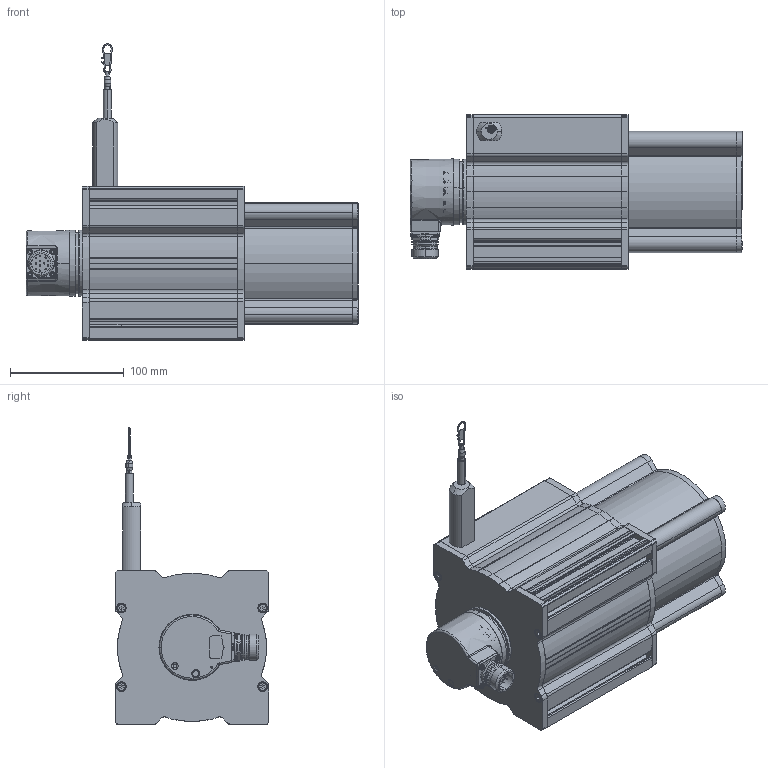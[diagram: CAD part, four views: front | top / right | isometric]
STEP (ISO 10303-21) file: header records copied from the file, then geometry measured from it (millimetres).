
FILE_DESCRIPTION (( 'STEP AP214' ), '1' );
FILE_NAME ('D8.4D1.4000.6324.G123.STEP', '2009-05-13T08:12:14', ( 'admin' ), ( 'Fritz Kübler GmbH' ), 'SwSTEP 2.0', 'SolidWorks 2009', '' );
FILE_SCHEMA (( 'AUTOMOTIVE_DESIGN' ));
Length unit declared in the file: millimetre
Products named in the file (1): D8.4D1.4000.6324.G123
Bounding box: 291.5 x 135 x 260.32 mm (x, y, z)
Volume: 762984.9 mm3; surface area: 419636.5 mm2
Topology: 37 solids, 39 shells, 1962 faces, 5078 edges, 3219 vertices
Faces by surface type: cylinder 912, plane 580, cone 272, torus 129, bspline 44, sphere 25
Entity records: 85538 total; most frequent: CARTESIAN_POINT 14685, DIRECTION 10866, ORIENTED_EDGE 9976, EDGE_CURVE 4988, AXIS2_PLACEMENT_3D 4324, VERTEX_POINT 3206, CIRCLE 2405, VECTOR 2218
